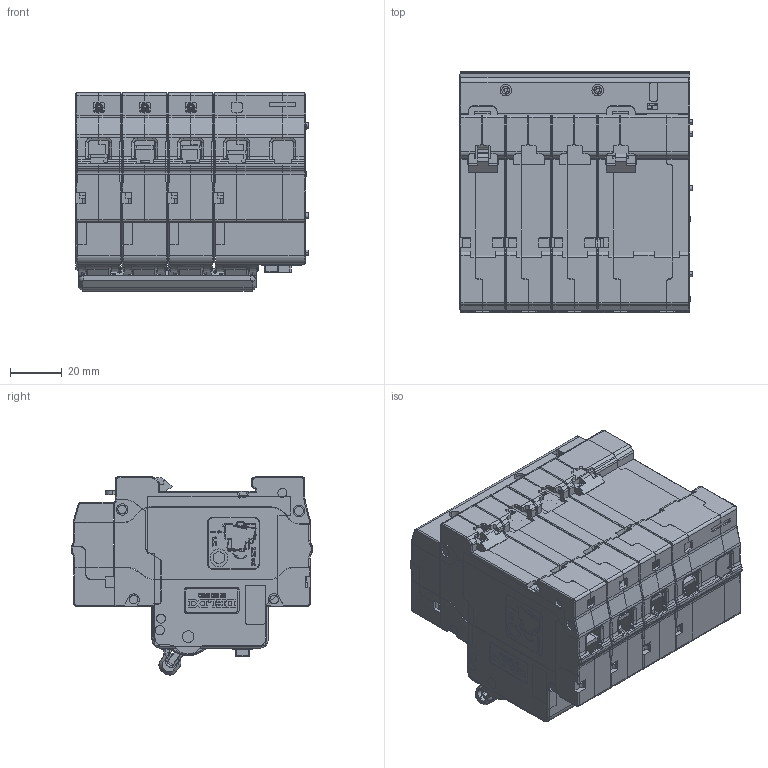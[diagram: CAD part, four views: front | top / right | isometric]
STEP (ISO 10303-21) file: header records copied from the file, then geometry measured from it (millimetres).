
FILE_DESCRIPTION((''),'2;1');
FILE_NAME('2290008000_SW0001','2020-05-29T',('yuan.lu'),(''),'PRO/ENGINEER BY PARAMETRIC TECHNOLOGY CORPORATION, 2015440','PRO/ENGINEER BY PARAMETRIC TECHNOLOGY CORPORATION, 2015440','');
FILE_SCHEMA(('CONFIG_CONTROL_DESIGN'));
Products named in the file (1): 2290008000_SW0001
Bounding box: 89.4 x 92.98 x 76.25 mm (x, y, z)
Surface area: 88238.7 mm2 (no closed solid volume)
Topology: 0 solids, 373 shells, 3012 faces, 14295 edges, 11367 vertices
Faces by surface type: plane 1828, cylinder 818, torus 197, cone 148, sphere 12, bspline 9
Entity records: 145358 total; most frequent: CARTESIAN_POINT 35243, DIRECTION 22113, ORIENTED_EDGE 19389, EDGE_CURVE 14295, VERTEX_POINT 11367, VECTOR 9987, LINE 9987, AXIS2_PLACEMENT_3D 6063
